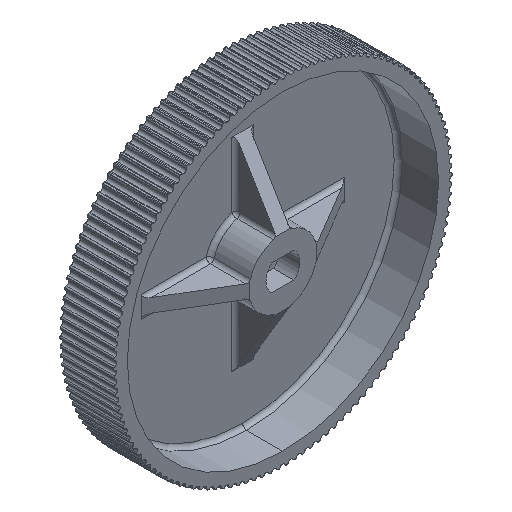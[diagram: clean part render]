
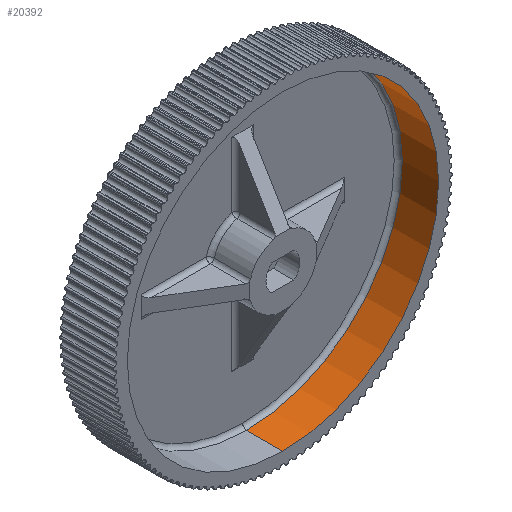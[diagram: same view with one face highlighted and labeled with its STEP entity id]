
A CAD part, isometric view. The second image highlights one B-rep face of the part: STEP entity #20392.
In plain terms, the highlighted cylindrical face has radius 11.5 mm (diameter 23 mm), a partial arc.
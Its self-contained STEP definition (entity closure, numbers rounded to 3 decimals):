
#3493 = DIRECTION ( 'NONE',  ( 0., 0., 1. ) ) ;
#3912 = VERTEX_POINT ( 'NONE', #9725 ) ;
#4015 = DIRECTION ( 'NONE',  ( 0., 1., 0. ) ) ;
#4099 = CARTESIAN_POINT ( 'NONE',  ( 0., 3.98, 0. ) ) ;
#4450 = ORIENTED_EDGE ( 'NONE', *, *, #16004, .F. ) ;
#4529 = CARTESIAN_POINT ( 'NONE',  ( 0., 0., 11.5 ) ) ;
#4961 = CARTESIAN_POINT ( 'NONE',  ( 0., 3.98, 11.5 ) ) ;
#5230 = DIRECTION ( 'NONE',  ( 0., -1., 0. ) ) ;
#5617 = CIRCLE ( 'NONE', #7218, 11.5 ) ;
#7218 = AXIS2_PLACEMENT_3D ( 'NONE', #14914, #4015, #22295 ) ;
#7899 = VERTEX_POINT ( 'NONE', #15520 ) ;
#8209 = VECTOR ( 'NONE', #5230, 1000. ) ;
#8755 = CARTESIAN_POINT ( 'NONE',  ( 0., 3.98, -11.5 ) ) ;
#9725 = CARTESIAN_POINT ( 'NONE',  ( 0., 2.68, 11.5 ) ) ;
#9816 = EDGE_CURVE ( 'NONE', #18591, #21952, #14981, .T. ) ;
#11315 = FACE_OUTER_BOUND ( 'NONE', #22091, .T. ) ;
#11509 = ORIENTED_EDGE ( 'NONE', *, *, #20393, .T. ) ;
#11588 = DIRECTION ( 'NONE',  ( 0., 0., -1. ) ) ;
#11608 = ORIENTED_EDGE ( 'NONE', *, *, #9816, .F. ) ;
#13659 = VECTOR ( 'NONE', #18861, 1000. ) ;
#14705 = CYLINDRICAL_SURFACE ( 'NONE', #23157, 11.5 ) ;
#14914 = CARTESIAN_POINT ( 'NONE',  ( 0., 2.68, 0. ) ) ;
#14981 = CIRCLE ( 'NONE', #20221, 11.5 ) ;
#15520 = CARTESIAN_POINT ( 'NONE',  ( 0., 2.68, -11.5 ) ) ;
#16004 = EDGE_CURVE ( 'NONE', #3912, #18591, #18804, .T. ) ;
#18042 = CARTESIAN_POINT ( 'NONE',  ( 0., 0., 0. ) ) ;
#18591 = VERTEX_POINT ( 'NONE', #4529 ) ;
#18804 = LINE ( 'NONE', #4961, #13659 ) ;
#18861 = DIRECTION ( 'NONE',  ( 0., -1., 0. ) ) ;
#18884 = DIRECTION ( 'NONE',  ( 0., -1., 0. ) ) ;
#18969 = CARTESIAN_POINT ( 'NONE',  ( 0., 0., -11.5 ) ) ;
#19257 = LINE ( 'NONE', #8755, #8209 ) ;
#19635 = DIRECTION ( 'NONE',  ( 0., 1., 0. ) ) ;
#20125 = EDGE_CURVE ( 'NONE', #7899, #21952, #19257, .T. ) ;
#20221 = AXIS2_PLACEMENT_3D ( 'NONE', #18042, #19635, #3493 ) ;
#20392 = ADVANCED_FACE ( 'NONE', ( #11315 ), #14705, .F. ) ;
#20393 = EDGE_CURVE ( 'NONE', #3912, #7899, #5617, .T. ) ;
#21952 = VERTEX_POINT ( 'NONE', #18969 ) ;
#22091 = EDGE_LOOP ( 'NONE', ( #4450, #11509, #22570, #11608 ) ) ;
#22295 = DIRECTION ( 'NONE',  ( 0., 0., 1. ) ) ;
#22570 = ORIENTED_EDGE ( 'NONE', *, *, #20125, .T. ) ;
#23157 = AXIS2_PLACEMENT_3D ( 'NONE', #4099, #18884, #11588 ) ;
